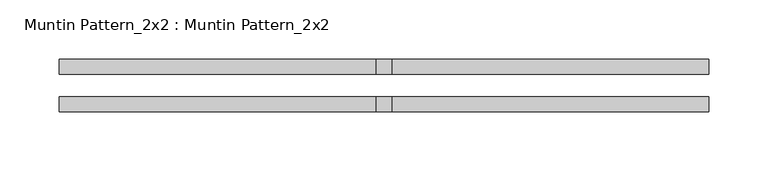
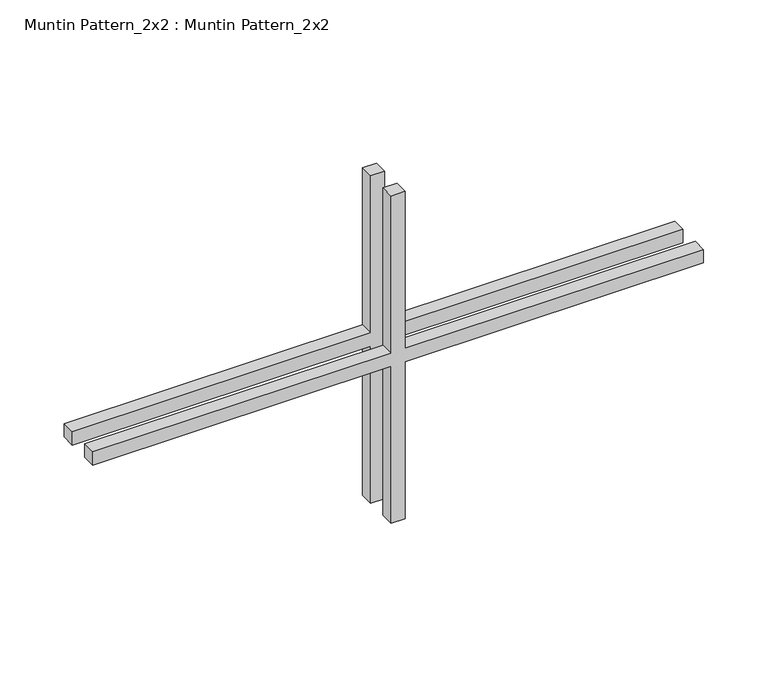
"""IFC4 building model written with IfcOpenShell, lengths in millimetres: proxy geometry, Muntin Pattern_2x2 : Muntin Pattern_2x2."""

from ifc_helpers import new_model, si_unit, frame, origin, place, context, project, spatial, polyline, outline, extrude, source, transform, mapped, element, save


def muntin_pattern_2x2_muntin_pattern_2x2_764e81ae(model_context):
    return source(origin(), model_context, "Body", "SweptSolid", [
        extrude(outline(polyline([(161.925, -6.35), (161.925, -274.6375), (149.225, -274.6375), (149.225, -6.35), (0.0, -6.35), (0.0, 6.35), (149.225, 6.35), (149.225, 274.6375), (161.925, 274.6375), (161.925, 6.35), (311.15, 6.35), (311.15, -6.35), (161.925, -6.35)])), frame((0.0, 9.525, 0.0), z_axis=(0.0, 1.0, 0.0), x_axis=(0.0, 0.0, 1.0)), (0.0, 0.0, 1.0), 12.7),
        extrude(outline(polyline([(161.925, -6.35), (161.925, -274.6375), (149.225, -274.6375), (149.225, -6.35), (0.0, -6.35), (0.0, 6.35), (149.225, 6.35), (149.225, 274.6375), (161.925, 274.6375), (161.925, 6.35), (311.15, 6.35), (311.15, -6.35), (161.925, -6.35)])), frame((0.0, -22.225, 0.0), z_axis=(0.0, 1.0, 0.0), x_axis=(0.0, 0.0, 1.0)), (0.0, 0.0, 1.0), 12.7),
    ])


if __name__ == "__main__":
    model = new_model("IFC4")
    model_context = context("Model", 3, world=origin())
    ifc_project = project(units=[si_unit("LENGTHUNIT", "METRE", prefix="MILLI")], contexts=[model_context])
    site = spatial("IfcSite", under=ifc_project)
    building = spatial("IfcBuilding", under=site)
    placement = place(None, origin())
    muntin_pattern_2x2_muntin_pattern_2x2_shape = muntin_pattern_2x2_muntin_pattern_2x2_764e81ae(model_context)
    element("IfcBuildingElementProxy", 1, Name="Muntin Pattern_2x2 : Muntin Pattern_2x2", ObjectType="Muntin Pattern_2x2 : Muntin Pattern_2x2", at=placement, inside=building, context=model_context, shape_type="MappedRepresentation", body=[
        mapped(muntin_pattern_2x2_muntin_pattern_2x2_shape, transform((0.0, 0.0, 0.0), x_axis=(1.0, 0.0, 0.0), y_axis=(0.0, 1.0, 0.0), z_axis=(0.0, 0.0, 1.0))),
    ])
    save(model, "model.ifc")
